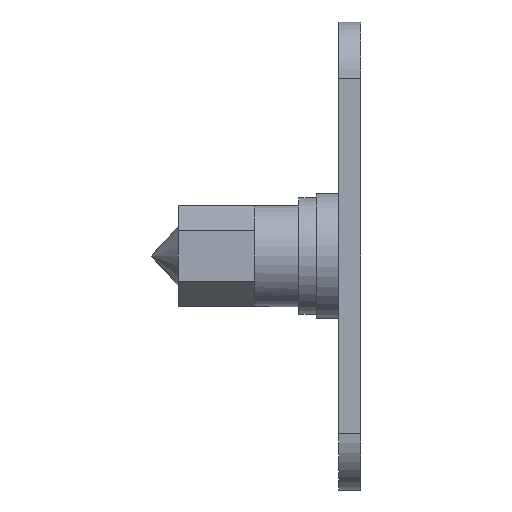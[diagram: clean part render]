
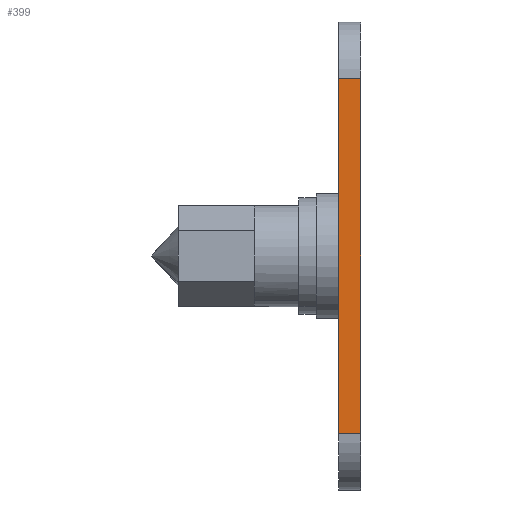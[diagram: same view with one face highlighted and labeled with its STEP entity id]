
A CAD part, left-side view. The second image highlights one B-rep face of the part: STEP entity #399.
In plain terms, the highlighted planar face has unit normal (-1, 0, 0) as drawn and (0, 1, 0) by its records, which use the part's own axes.
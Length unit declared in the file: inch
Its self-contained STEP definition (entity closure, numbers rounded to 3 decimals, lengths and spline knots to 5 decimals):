
#305 = VERTEX_POINT ( 'NONE', #1678 ) ;
#306 = VERTEX_POINT ( 'NONE', #1679 ) ;
#307 = VERTEX_POINT ( 'NONE', #1680 ) ;
#308 = VERTEX_POINT ( 'NONE', #1681 ) ;
#399 = ADVANCED_FACE ( 'NONE', ( #918 ), #1859, .F. ) ;
#467 = EDGE_LOOP ( 'NONE', ( #508, #493, #494, #495 ) ) ;
#493 = ORIENTED_EDGE ( 'NONE', *, *, #3206, .T. ) ;
#494 = ORIENTED_EDGE ( 'NONE', *, *, #3251, .T. ) ;
#495 = ORIENTED_EDGE ( 'NONE', *, *, #3247, .T. ) ;
#508 = ORIENTED_EDGE ( 'NONE', *, *, #3207, .F. ) ;
#918 = FACE_OUTER_BOUND ( 'NONE', #467, .T. ) ;
#972 = LINE ( 'NONE', #1944, #987 ) ;
#985 = LINE ( 'NONE', #1946, #989 ) ;
#987 = VECTOR ( 'NONE', #1947, 39.37008 ) ;
#989 = VECTOR ( 'NONE', #1949, 39.37008 ) ;
#1055 = LINE ( 'NONE', #2039, #1056 ) ;
#1056 = VECTOR ( 'NONE', #2040, 39.37008 ) ;
#1065 = LINE ( 'NONE', #2047, #1066 ) ;
#1066 = VECTOR ( 'NONE', #2048, 39.37008 ) ;
#1678 = CARTESIAN_POINT ( 'NONE',  ( 0.781, 2.969, 0.097 ) ) ;
#1679 = CARTESIAN_POINT ( 'NONE',  ( -0.781, 2.969, 0.097 ) ) ;
#1680 = CARTESIAN_POINT ( 'NONE',  ( 0.781, 2.969, 0. ) ) ;
#1681 = CARTESIAN_POINT ( 'NONE',  ( -0.781, 2.969, 0. ) ) ;
#1854 = CARTESIAN_POINT ( 'NONE',  ( -1.031, 2.969, 0.097 ) ) ;
#1859 = PLANE ( 'NONE',  #3546 ) ;
#1864 = DIRECTION ( 'NONE',  ( 0., -1., 0. ) ) ;
#1865 = DIRECTION ( 'NONE',  ( 0., 0., -1. ) ) ;
#1944 = CARTESIAN_POINT ( 'NONE',  ( 0.781, 2.969, 0.097 ) ) ;
#1946 = CARTESIAN_POINT ( 'NONE',  ( -1.031, 2.969, 0.097 ) ) ;
#1947 = DIRECTION ( 'NONE',  ( 0., 0., -1. ) ) ;
#1949 = DIRECTION ( 'NONE',  ( -1., 0., 0. ) ) ;
#2039 = CARTESIAN_POINT ( 'NONE',  ( -0.781, 2.969, 0.097 ) ) ;
#2040 = DIRECTION ( 'NONE',  ( 0., 0., 1. ) ) ;
#2047 = CARTESIAN_POINT ( 'NONE',  ( -1.031, 2.969, 0. ) ) ;
#2048 = DIRECTION ( 'NONE',  ( -1., 0., 0. ) ) ;
#3206 = EDGE_CURVE ( 'NONE', #305, #307, #972, .T. ) ;
#3207 = EDGE_CURVE ( 'NONE', #305, #306, #985, .T. ) ;
#3247 = EDGE_CURVE ( 'NONE', #308, #306, #1055, .T. ) ;
#3251 = EDGE_CURVE ( 'NONE', #307, #308, #1065, .T. ) ;
#3546 = AXIS2_PLACEMENT_3D ( 'NONE', #1854, #1864, #1865 ) ;
